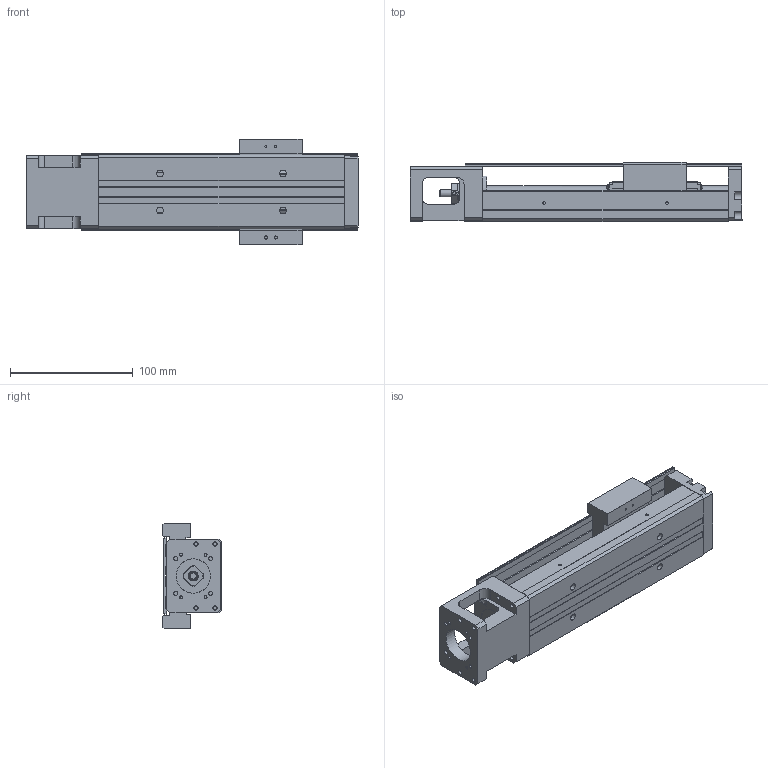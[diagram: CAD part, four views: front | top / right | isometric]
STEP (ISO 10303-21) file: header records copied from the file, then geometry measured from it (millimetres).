
FILE_DESCRIPTION(/* description */ (''),/* implementation_level */ '2;1');
FILE_NAME(/* name */ 'KP33N-200-C.stp',/* time_stamp */ '2020-06-04T13:58:46+08:00',/* author */ (''),/* organization */ (''),/* preprocessor_version */ 'ST-DEVELOPER v14',/* originating_system */ 'SIEMENS PLM Software NX 8.0',/* authorisation */ '');
FILE_SCHEMA (('AUTOMOTIVE_DESIGN { 1 0 10303 214 3 1 1 1 }'));
Length unit declared in the file: millimetre
Products named in the file (1): model1
Bounding box: 270 x 47.95 x 86 mm (x, y, z)
Volume: 438338.3 mm3; surface area: 145733 mm2
Topology: 7 solids, 12 shells, 697 faces, 1778 edges, 1176 vertices
Faces by surface type: plane 419, cylinder 191, bspline 31, cone 24, extrusion 21, torus 9, revolution 2
Full cylindrical faces by diameter (mm): 1.6 x4, 1.65 x4, 2.15 x2, 2.42 x4, 2.45 x8, 2.5 x14, 3 x3, 3.2 x4, 3.3 x4, 3.4 x3, 3.5 x10, 3.969 x1, 4 x6, 4.001 x1, 4.135 x4, 4.2 x4, 5.5 x4, 6 x5, 7.6 x1, 8 x5, 9.5 x4, 10.72 x3, 11.8 x2, 12 x6, 12.8 x1, 13 x2, 14 x1, 17.38 x3, 21.5 x1, 22 x2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
Entity records: 35657 total; most frequent: CARTESIAN_POINT 15782, DIRECTION 3174, ORIENTED_EDGE 3094, EDGE_CURVE 1547, AXIS2_PLACEMENT_3D 1102, VERTEX_POINT 1097, EDGE_LOOP 982, VECTOR 968
